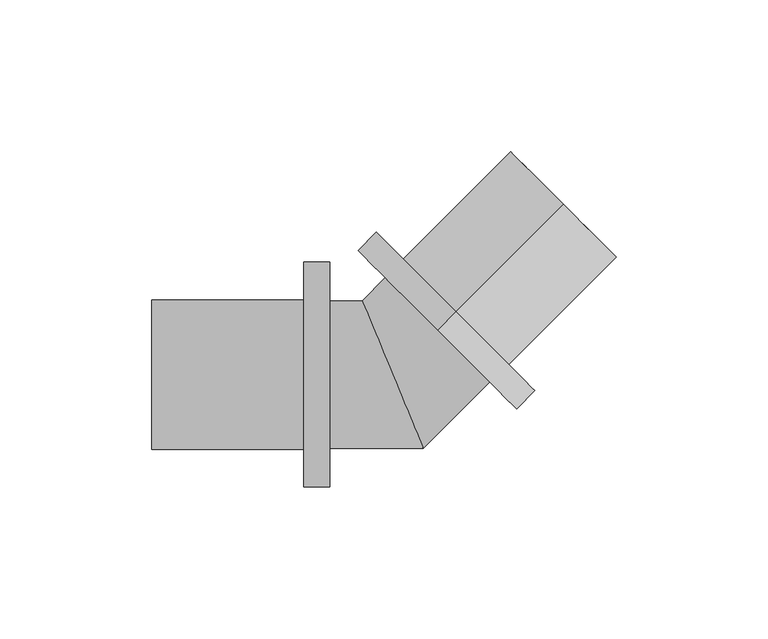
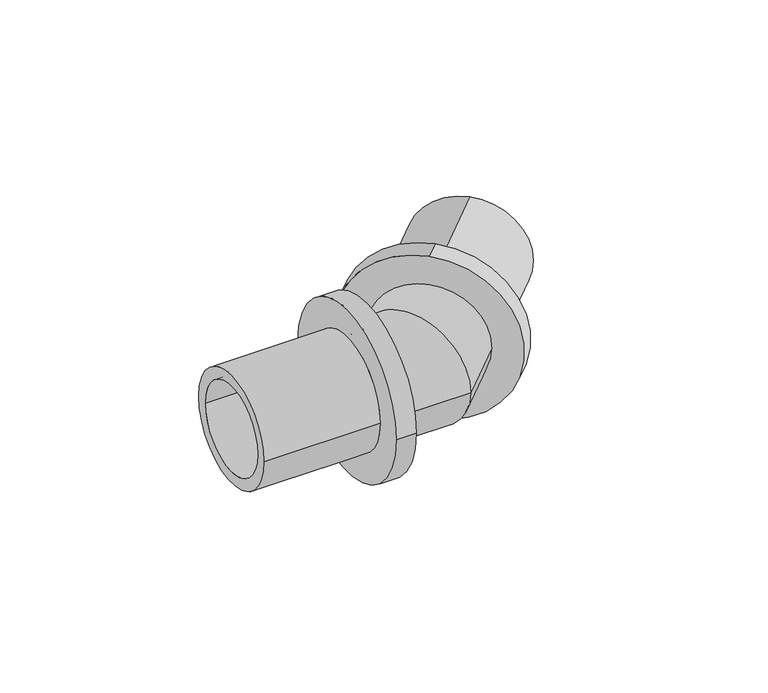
"""IFC4 building model written with IfcOpenShell, lengths in millimetres: pipe fitting geometry, RAUTITAN_Corner_LX : RTI LX/PX C DN."""

from ifc_helpers import new_model, si_unit, frame, origin, place, context, project, spatial, polyline, circle_curve, ellipse_curve, source, transform, mapped, element, save
from ifc_brep_helpers import plane_surface, cylinder_surface, revolved_surface, advanced_brep


def pipe_fitting_0fc6f2a1(model_context):
    return source(origin(), model_context, "Body", "AdvancedBrep", [
        advanced_brep(
        [(20.7182287, 20.7182287, 37.0), (20.7182287, 20.7182287, -37.0), (14.707821, 14.707821, -37.0), (14.707821, 14.707821, 37.0), (56.0735677, 56.0735677, 24.6), (56.0735677, 56.0735677, -24.6), (20.7182287, 20.7182287, -24.6), (20.7182287, 20.7182287, 24.6), (14.707821, 14.707821, 19.5), (14.707821, 14.707821, -19.5), (56.0735677, 56.0735677, -19.5), (56.0735677, 56.0735677, 19.5)],
        [
            (0, 1, circle_curve(frame((20.7182287, 20.7182287, 0.0), z_axis=(-0.7071067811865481, -0.7071067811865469, 0.0), x_axis=(0.0, 0.0, -1.0)), 37.0)),
            (1, 2),
            (2, 3, circle_curve(frame((14.707821, 14.707821, 0.0), z_axis=(0.7071067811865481, 0.7071067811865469, 0.0), x_axis=(0.0, 0.0, -1.0)), 37.0)),
            (3, 0),
            (4, 5, circle_curve(frame((56.0735677, 56.0735677, 0.0), z_axis=(-0.7071067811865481, -0.7071067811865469, 0.0), x_axis=(0.0, 0.0, -1.0)), 24.6)),
            (5, 6),
            (6, 7, circle_curve(frame((20.7182287, 20.7182287, 0.0), z_axis=(0.7071067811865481, 0.7071067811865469, 0.0), x_axis=(0.0, 0.0, -1.0)), 24.6)),
            (7, 4),
            (8, 9, circle_curve(frame((14.707821, 14.707821, 0.0), z_axis=(-0.7071067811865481, -0.7071067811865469, 0.0), x_axis=(0.0, 0.0, -1.0)), 19.5)),
            (9, 10),
            (10, 11, circle_curve(frame((56.0735677, 56.0735677, 0.0), z_axis=(0.7071067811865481, 0.7071067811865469, 0.0), x_axis=(0.0, 0.0, -1.0)), 19.5)),
            (11, 8),
            (1, 0, circle_curve(frame((20.7182287, 20.7182287, 0.0), z_axis=(-0.7071067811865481, -0.7071067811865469, 0.0), x_axis=(0.0, 0.0, 1.0)), 37.0)),
            (3, 2, circle_curve(frame((14.707821, 14.707821, 0.0), z_axis=(0.7071067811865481, 0.7071067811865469, 0.0), x_axis=(0.0, 0.0, 1.0)), 37.0)),
            (6, 7, circle_curve(frame((20.7182287, 20.7182287, 0.0), z_axis=(-0.7071067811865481, -0.7071067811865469, 0.0), x_axis=(0.0, 0.0, 1.0)), 24.6)),
            (5, 4, circle_curve(frame((56.0735677, 56.0735677, 0.0), z_axis=(-0.7071067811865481, -0.7071067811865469, 0.0), x_axis=(0.0, 0.0, 1.0)), 24.6)),
            (10, 11, circle_curve(frame((56.0735677, 56.0735677, 0.0), z_axis=(-0.7071067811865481, -0.7071067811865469, 0.0), x_axis=(0.0, 0.0, 1.0)), 19.5)),
            (9, 8, circle_curve(frame((14.707821, 14.707821, 0.0), z_axis=(-0.7071067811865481, -0.7071067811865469, 0.0), x_axis=(0.0, 0.0, 1.0)), 19.5)),
        ],
        [
            cylinder_surface(frame((14.707821, 14.707821, 0.0), z_axis=(0.7071067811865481, 0.7071067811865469, 0.0), x_axis=(0.0, 0.0, -1.0)), 37.0),
            cylinder_surface(frame((14.707821, 14.707821, 0.0), z_axis=(0.7071067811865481, 0.7071067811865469, 0.0), x_axis=(0.0, 0.0, -1.0)), 24.6),
            revolved_surface(polyline([(56.07356770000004, 56.07356769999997, -19.5), (14.707821, 14.707821, -19.5)]), (14.707821, 14.707821, 0.0), (0.7071067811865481, 0.7071067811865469, 0.0)),
            cylinder_surface(frame((14.707821, 14.707821, 0.0), z_axis=(0.7071067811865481, 0.7071067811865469, 0.0), x_axis=(0.0, 0.0, 1.0)), 37.0),
            plane_surface(frame((20.7182287, 20.7182287, 0.0), z_axis=(0.7071067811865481, 0.7071067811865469, 0.0), x_axis=(0.0, 0.0, 1.0))),
            cylinder_surface(frame((14.707821, 14.707821, 0.0), z_axis=(0.7071067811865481, 0.7071067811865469, 0.0), x_axis=(0.0, 0.0, 1.0)), 24.6),
            plane_surface(frame((56.0735677, 56.0735677, 0.0), z_axis=(0.7071067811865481, 0.7071067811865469, 0.0), x_axis=(0.0, 0.0, 1.0))),
            revolved_surface(polyline([(56.07356770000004, 56.07356769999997, 19.5), (14.707821, 14.707821, 19.5)]), (14.707821, 14.707821, 0.0), (0.7071067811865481, 0.7071067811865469, 0.0)),
            plane_surface(frame((14.707821, 14.707821, 0.0), z_axis=(-0.7071067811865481, -0.7071067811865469, 0.0), x_axis=(0.0, 0.0, 1.0))),
        ],
        [
            (0, [[1, 2, 3, 4]]),
            (1, [[5, 6, 7, 8]]),
            (2, [[9, 10, 11, 12]]),
            (3, [[13, -4, 14, -2]]),
            (4, [[-13, -1], [15, -7]]),
            (5, [[16, -8, -15, -6]]),
            (6, [[-16, -5], [17, -11]]),
            (7, [[18, -12, -17, -10]]),
            (8, [[-14, -3], [-18, -9]]),
        ],
    ),
        advanced_brep(
        [(-29.3, -37.0, 0.0), (-29.3, 37.0, 0.0), (-20.8, 37.0, 0.0), (-20.8, -37.0, 0.0), (-79.3, -24.6, 0.0), (-79.3, 24.6, 0.0), (-29.3, 24.6, 0.0), (-29.3, -24.6, 0.0), (-20.8, -19.5, 0.0), (-20.8, 19.5, 0.0), (-79.3, 19.5, 0.0), (-79.3, -19.5, 0.0)],
        [
            (0, 1, circle_curve(frame((-29.3, 0.0, 0.0), z_axis=(1.0, 0.0, 0.0), x_axis=(0.0, 1.0, 0.0)), 37.0)),
            (1, 2),
            (2, 3, circle_curve(frame((-20.8, 0.0, 0.0), z_axis=(-1.0, 0.0, 0.0), x_axis=(0.0, 1.0, 0.0)), 37.0)),
            (3, 0),
            (4, 5, circle_curve(frame((-79.3, 0.0, 0.0), z_axis=(1.0, 0.0, 0.0), x_axis=(0.0, 1.0, 0.0)), 24.6)),
            (5, 6),
            (6, 7, circle_curve(frame((-29.3, 0.0, 0.0), z_axis=(-1.0, 0.0, 0.0), x_axis=(0.0, 1.0, 0.0)), 24.6)),
            (7, 4),
            (8, 9, circle_curve(frame((-20.8, 0.0, 0.0), z_axis=(1.0, 0.0, 0.0), x_axis=(0.0, 1.0, 0.0)), 19.5)),
            (9, 10),
            (10, 11, circle_curve(frame((-79.3, 0.0, 0.0), z_axis=(-1.0, 0.0, 0.0), x_axis=(0.0, 1.0, 0.0)), 19.5)),
            (11, 8),
            (1, 0, circle_curve(frame((-29.3, 0.0, 0.0), z_axis=(1.0, 0.0, 0.0), x_axis=(0.0, -1.0, 0.0)), 37.0)),
            (3, 2, circle_curve(frame((-20.8, 0.0, 0.0), z_axis=(-1.0, 0.0, 0.0), x_axis=(0.0, -1.0, 0.0)), 37.0)),
            (6, 7, circle_curve(frame((-29.3, 0.0, 0.0), z_axis=(1.0, 0.0, 0.0), x_axis=(0.0, -1.0, 0.0)), 24.6)),
            (5, 4, circle_curve(frame((-79.3, 0.0, 0.0), z_axis=(1.0, 0.0, 0.0), x_axis=(0.0, -1.0, 0.0)), 24.6)),
            (10, 11, circle_curve(frame((-79.3, 0.0, 0.0), z_axis=(1.0, 0.0, 0.0), x_axis=(0.0, -1.0, 0.0)), 19.5)),
            (9, 8, circle_curve(frame((-20.8, 0.0, 0.0), z_axis=(1.0, 0.0, 0.0), x_axis=(0.0, -1.0, 0.0)), 19.5)),
        ],
        [
            cylinder_surface(frame((-20.8, 0.0, 0.0), z_axis=(-1.0, 0.0, 0.0), x_axis=(0.0, 1.0, 0.0)), 37.0),
            cylinder_surface(frame((-20.8, 0.0, 0.0), z_axis=(-1.0, 0.0, 0.0), x_axis=(0.0, 1.0, 0.0)), 24.6),
            revolved_surface(polyline([(-79.3, 19.5, 0.0), (-20.8, 19.5, 0.0)]), (-20.8, 0.0, 0.0), (-1.0, 0.0, 0.0)),
            cylinder_surface(frame((-20.8, 0.0, 0.0), z_axis=(-1.0, 0.0, 0.0), x_axis=(0.0, -1.0, 0.0)), 37.0),
            plane_surface(frame((-29.3, 0.0, 0.0), z_axis=(-1.0, 0.0, 0.0), x_axis=(0.0, -1.0, 0.0))),
            cylinder_surface(frame((-20.8, 0.0, 0.0), z_axis=(-1.0, 0.0, 0.0), x_axis=(0.0, -1.0, 0.0)), 24.6),
            plane_surface(frame((-79.3, 0.0, 0.0), z_axis=(-1.0, 0.0, 0.0), x_axis=(0.0, -1.0, 0.0))),
            revolved_surface(polyline([(-79.3, -19.5, 0.0), (-20.8, -19.5, 0.0)]), (-20.8, 0.0, 0.0), (-1.0, 0.0, 0.0)),
            plane_surface(frame((-20.8, 0.0, 0.0), z_axis=(1.0, 0.0, 0.0), x_axis=(0.0, -1.0, 0.0))),
        ],
        [
            (0, [[1, 2, 3, 4]]),
            (1, [[5, 6, 7, 8]]),
            (2, [[9, 10, 11, 12]]),
            (3, [[13, -4, 14, -2]]),
            (4, [[-13, -1], [15, -7]]),
            (5, [[16, -8, -15, -6]]),
            (6, [[-16, -5], [17, -11]]),
            (7, [[18, -12, -17, -10]]),
            (8, [[-14, -3], [-18, -9]]),
        ],
    ),
        advanced_brep(
        [(-20.8, -24.3, 0.0), (-20.8, 24.3, 0.0), (-20.8, -19.5, 0.0), (-20.8, 19.5, 0.0), (-8.0771645, 19.5, 0.0), (8.0771645, -19.5, 0.0), (31.8905158, -2.4748737, 0.0), (-2.4748737, 31.8905158, 0.0), (28.4964033, 0.9192388, 0.0), (0.9192388, 28.4964033, 0.0), (10.0653896, -24.3, 0.0), (-10.0653896, 24.3, 0.0)],
        [
            (0, 1, circle_curve(frame((-20.8, 0.0, 0.0), z_axis=(-1.0, 0.0, 0.0), x_axis=(0.0, 1.0, 0.0)), 24.3)),
            (1, 0, circle_curve(frame((-20.8, 0.0, 0.0), z_axis=(-1.0, 0.0, 0.0), x_axis=(0.0, 1.0, 0.0)), 24.3)),
            (2, 3, circle_curve(frame((-20.8, 0.0, 0.0), z_axis=(1.0, 0.0, 0.0), x_axis=(0.0, 1.0, 0.0)), 19.5)),
            (3, 2, circle_curve(frame((-20.8, 0.0, 0.0), z_axis=(1.0, 0.0, 0.0), x_axis=(0.0, 1.0, 0.0)), 19.5)),
            (3, 4),
            (4, 5, ellipse_curve(frame((0.0, 0.0, 0.0), z_axis=(0.923879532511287, 0.38268343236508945, 0.0), x_axis=(0.38268343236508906, -0.9238795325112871, 0.0)), 21.1066479, 19.5)),
            (5, 2),
            (5, 4, ellipse_curve(frame((0.0, 0.0, 0.0), z_axis=(0.923879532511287, 0.38268343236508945, 0.0), x_axis=(0.38268343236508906, -0.9238795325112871, 0.0)), 21.1066479, 19.5)),
            (6, 7, circle_curve(frame((14.707821, 14.707821, 0.0), z_axis=(0.7071067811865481, 0.707106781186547, 0.0), x_axis=(-0.707106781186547, 0.7071067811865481, 0.0)), 24.3)),
            (7, 6, circle_curve(frame((14.707821, 14.707821, 0.0), z_axis=(0.7071067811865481, 0.707106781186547, 0.0), x_axis=(-0.707106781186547, 0.7071067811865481, 0.0)), 24.3)),
            (8, 9, circle_curve(frame((14.707821, 14.707821, 0.0), z_axis=(-0.7071067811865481, -0.707106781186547, 0.0), x_axis=(-0.707106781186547, 0.7071067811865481, 0.0)), 19.5)),
            (9, 8, circle_curve(frame((14.707821, 14.707821, 0.0), z_axis=(-0.7071067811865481, -0.707106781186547, 0.0), x_axis=(-0.707106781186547, 0.7071067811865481, 0.0)), 19.5)),
            (4, 9),
            (8, 5),
            (0, 10),
            (10, 11, ellipse_curve(frame((0.0, 0.0, 0.0), z_axis=(-0.923879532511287, -0.38268343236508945, 0.0), x_axis=(-0.38268343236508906, 0.9238795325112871, 0.0)), 26.3021305, 24.3)),
            (11, 1),
            (11, 10, ellipse_curve(frame((0.0, 0.0, 0.0), z_axis=(-0.923879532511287, -0.38268343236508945, 0.0), x_axis=(-0.38268343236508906, 0.9238795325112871, 0.0)), 26.3021305, 24.3)),
            (10, 6),
            (7, 11),
        ],
        [
            plane_surface(frame((-20.8, 0.0, 0.0), z_axis=(-1.0, 0.0, 0.0), x_axis=(0.0, 0.0, 1.0))),
            revolved_surface(polyline([(8.077164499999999, 19.5, 0.0), (-20.8, 19.5, 0.0)]), (-20.8, 0.0, 0.0), (1.0, 0.0, 0.0)),
            plane_surface(frame((14.707821, 14.707821, 0.0), z_axis=(0.7071067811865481, 0.707106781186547, 0.0), x_axis=(0.0, 0.0, 1.0))),
            revolved_surface(polyline([(0.9192388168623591, 28.496403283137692, 0.0), (-19.49999999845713, 8.077164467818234, 0.0)]), (0.0, 0.0, 0.0), (0.7071067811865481, 0.707106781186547, 0.0)),
            cylinder_surface(frame((-20.8, 0.0, 0.0), z_axis=(-1.0, 0.0, 0.0), x_axis=(0.0, 1.0, 0.0)), 24.3),
            cylinder_surface(frame((0.0, 0.0, 0.0), z_axis=(-0.7071067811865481, -0.707106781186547, 0.0), x_axis=(-0.707106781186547, 0.7071067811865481, 0.0)), 24.3),
        ],
        [
            (0, [[1, 2], [3, 4]]),
            (1, [[-4, 5, 6, 7]]),
            (1, [[-3, -7, 8, -5]]),
            (2, [[9, 10], [11, 12]]),
            (3, [[-6, 13, -11, 14]]),
            (3, [[-8, -14, -12, -13]]),
            (4, [[-1, 15, 16, 17]]),
            (4, [[-2, -17, 18, -15]]),
            (5, [[-16, 19, -10, 20]]),
            (5, [[-18, -20, -9, -19]]),
        ],
    ),
    ])


if __name__ == "__main__":
    model = new_model("IFC4")
    model_context = context("Model", 3, world=origin())
    ifc_project = project(units=[si_unit("LENGTHUNIT", "METRE", prefix="MILLI")], contexts=[model_context])
    site = spatial("IfcSite", under=ifc_project)
    building = spatial("IfcBuilding", under=site)
    placement = place(None, origin())
    pipe_fitting_shape = pipe_fitting_0fc6f2a1(model_context)
    element("IfcPipeFitting", 1, ObjectType="RAUTITAN_Corner_LX : RTI LX/PX C DN", at=placement, inside=building, context=model_context, shape_type="MappedRepresentation", body=[
        mapped(pipe_fitting_shape, transform((0.0, 0.0, 0.0), x_axis=(1.0, 0.0, 0.0), y_axis=(0.0, 1.0, 0.0), z_axis=(0.0, 0.0, 1.0))),
    ])
    save(model, "model.ifc")
